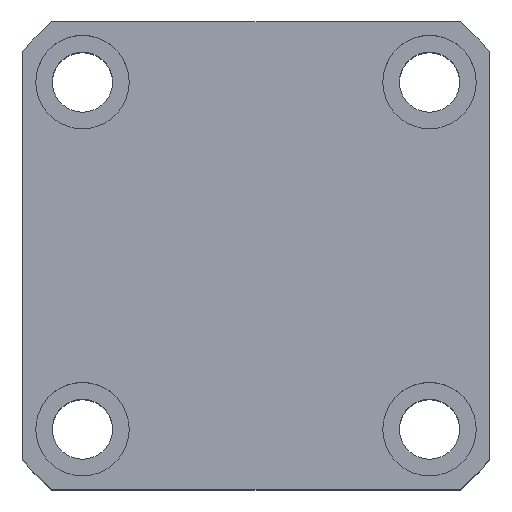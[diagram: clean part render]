
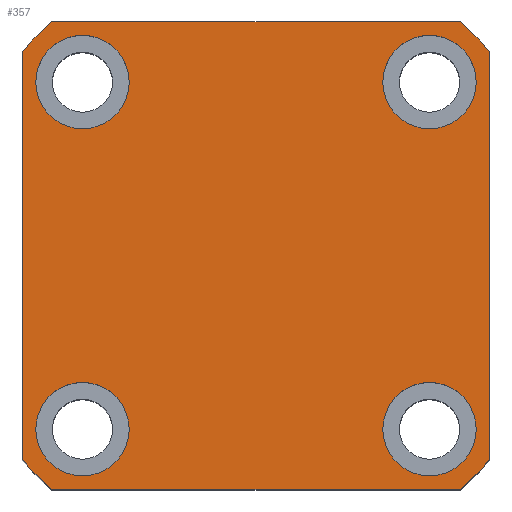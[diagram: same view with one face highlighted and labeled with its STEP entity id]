
A CAD part, top view. The second image highlights one B-rep face of the part: STEP entity #357.
In plain terms, the highlighted planar face has unit normal (0, 0, 1).
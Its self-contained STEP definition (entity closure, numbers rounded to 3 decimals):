
#89 = CARTESIAN_POINT ( 'NONE',  ( -35., 35., 70. ) ) ;
#112 = VERTEX_POINT ( 'NONE', #2491 ) ;
#145 = CARTESIAN_POINT ( 'NONE',  ( 0., 0., 70. ) ) ;
#148 = LINE ( 'NONE', #7885, #6182 ) ;
#241 = DIRECTION ( 'NONE',  ( 1., 0., 0. ) ) ;
#321 = CARTESIAN_POINT ( 'NONE',  ( 26., 26., 70. ) ) ;
#338 = VERTEX_POINT ( 'NONE', #4528 ) ;
#357 = ADVANCED_FACE ( 'NONE', ( #1483, #3338, #9853, #5417, #5171 ), #9178, .T. ) ;
#388 = DIRECTION ( 'NONE',  ( 1., 0., 0. ) ) ;
#466 = VERTEX_POINT ( 'NONE', #634 ) ;
#480 = CARTESIAN_POINT ( 'NONE',  ( 35., 35., 70. ) ) ;
#558 = DIRECTION ( 'NONE',  ( 0., 0., 1. ) ) ;
#577 = ORIENTED_EDGE ( 'NONE', *, *, #3865, .T. ) ;
#616 = CARTESIAN_POINT ( 'NONE',  ( 0., 0., 70. ) ) ;
#634 = CARTESIAN_POINT ( 'NONE',  ( 30.615, -35., 70. ) ) ;
#777 = CIRCLE ( 'NONE', #7528, 46.5 ) ;
#785 = CARTESIAN_POINT ( 'NONE',  ( 26., -26., 70. ) ) ;
#825 = ORIENTED_EDGE ( 'NONE', *, *, #5369, .T. ) ;
#839 = CIRCLE ( 'NONE', #3670, 7. ) ;
#865 = DIRECTION ( 'NONE',  ( 0., -1., 0. ) ) ;
#907 = ORIENTED_EDGE ( 'NONE', *, *, #4036, .F. ) ;
#983 = DIRECTION ( 'NONE',  ( 0., 0., 1. ) ) ;
#1002 = DIRECTION ( 'NONE',  ( 0., 0., 1. ) ) ;
#1056 = CARTESIAN_POINT ( 'NONE',  ( -35., 35., 70. ) ) ;
#1106 = DIRECTION ( 'NONE',  ( 1., 0., 0. ) ) ;
#1255 = ORIENTED_EDGE ( 'NONE', *, *, #4089, .F. ) ;
#1362 = EDGE_LOOP ( 'NONE', ( #3307, #3544 ) ) ;
#1401 = DIRECTION ( 'NONE',  ( 1., 0., 0. ) ) ;
#1414 = AXIS2_PLACEMENT_3D ( 'NONE', #9094, #558, #6578 ) ;
#1480 = CARTESIAN_POINT ( 'NONE',  ( 19., -26., 70. ) ) ;
#1483 = FACE_BOUND ( 'NONE', #1548, .T. ) ;
#1548 = EDGE_LOOP ( 'NONE', ( #2210, #8474 ) ) ;
#1556 = CARTESIAN_POINT ( 'NONE',  ( -35., 30.615, 70. ) ) ;
#1577 = DIRECTION ( 'NONE',  ( 1., 0., 0. ) ) ;
#1839 = AXIS2_PLACEMENT_3D ( 'NONE', #9812, #5094, #388 ) ;
#1948 = VERTEX_POINT ( 'NONE', #4891 ) ;
#1993 = DIRECTION ( 'NONE',  ( 0., 1., 0. ) ) ;
#2118 = EDGE_CURVE ( 'NONE', #6898, #1948, #7145, .T. ) ;
#2145 = CIRCLE ( 'NONE', #9343, 7. ) ;
#2210 = ORIENTED_EDGE ( 'NONE', *, *, #3240, .F. ) ;
#2308 = CARTESIAN_POINT ( 'NONE',  ( -19., 26., 70. ) ) ;
#2447 = VERTEX_POINT ( 'NONE', #7790 ) ;
#2491 = CARTESIAN_POINT ( 'NONE',  ( 30.615, 35., 70. ) ) ;
#2540 = DIRECTION ( 'NONE',  ( 0., 0., 1. ) ) ;
#2567 = LINE ( 'NONE', #89, #8853 ) ;
#2967 = ORIENTED_EDGE ( 'NONE', *, *, #10031, .T. ) ;
#3009 = CIRCLE ( 'NONE', #5595, 7. ) ;
#3055 = DIRECTION ( 'NONE',  ( 0., 0., 1. ) ) ;
#3240 = EDGE_CURVE ( 'NONE', #1948, #6898, #839, .T. ) ;
#3282 = AXIS2_PLACEMENT_3D ( 'NONE', #9658, #4941, #241 ) ;
#3300 = VERTEX_POINT ( 'NONE', #5389 ) ;
#3307 = ORIENTED_EDGE ( 'NONE', *, *, #6005, .F. ) ;
#3338 = FACE_BOUND ( 'NONE', #5575, .T. ) ;
#3360 = ORIENTED_EDGE ( 'NONE', *, *, #7039, .F. ) ;
#3476 = VERTEX_POINT ( 'NONE', #4901 ) ;
#3544 = ORIENTED_EDGE ( 'NONE', *, *, #8034, .F. ) ;
#3629 = ORIENTED_EDGE ( 'NONE', *, *, #9058, .T. ) ;
#3659 = CARTESIAN_POINT ( 'NONE',  ( -33., -26., 70. ) ) ;
#3670 = AXIS2_PLACEMENT_3D ( 'NONE', #8535, #3825, #9329 ) ;
#3689 = VERTEX_POINT ( 'NONE', #10104 ) ;
#3786 = VERTEX_POINT ( 'NONE', #1556 ) ;
#3825 = DIRECTION ( 'NONE',  ( 0., 0., 1. ) ) ;
#3865 = EDGE_CURVE ( 'NONE', #3786, #7683, #2567, .T. ) ;
#3967 = ORIENTED_EDGE ( 'NONE', *, *, #8348, .T. ) ;
#3982 = CIRCLE ( 'NONE', #1839, 46.5 ) ;
#4005 = CARTESIAN_POINT ( 'NONE',  ( 33., 26., 70. ) ) ;
#4036 = EDGE_CURVE ( 'NONE', #10176, #7607, #8425, .T. ) ;
#4089 = EDGE_CURVE ( 'NONE', #2447, #4762, #2145, .T. ) ;
#4197 = DIRECTION ( 'NONE',  ( 0., 0., 1. ) ) ;
#4306 = DIRECTION ( 'NONE',  ( 0., 0., 1. ) ) ;
#4528 = CARTESIAN_POINT ( 'NONE',  ( 35., -30.615, 70. ) ) ;
#4762 = VERTEX_POINT ( 'NONE', #1480 ) ;
#4823 = CIRCLE ( 'NONE', #7171, 46.5 ) ;
#4891 = CARTESIAN_POINT ( 'NONE',  ( -19., -26., 70. ) ) ;
#4901 = CARTESIAN_POINT ( 'NONE',  ( -30.615, 35., 70. ) ) ;
#4931 = AXIS2_PLACEMENT_3D ( 'NONE', #785, #6301, #1577 ) ;
#4941 = DIRECTION ( 'NONE',  ( 0., 0., 1. ) ) ;
#5094 = DIRECTION ( 'NONE',  ( 0., 0., 1. ) ) ;
#5171 = FACE_OUTER_BOUND ( 'NONE', #7206, .T. ) ;
#5369 = EDGE_CURVE ( 'NONE', #3476, #3786, #4823, .T. ) ;
#5389 = CARTESIAN_POINT ( 'NONE',  ( 35., 30.615, 70. ) ) ;
#5417 = FACE_BOUND ( 'NONE', #5478, .T. ) ;
#5431 = CIRCLE ( 'NONE', #3282, 46.5 ) ;
#5478 = EDGE_LOOP ( 'NONE', ( #907, #10182 ) ) ;
#5514 = DIRECTION ( 'NONE',  ( 1., 0., 0. ) ) ;
#5575 = EDGE_LOOP ( 'NONE', ( #1255, #3360 ) ) ;
#5595 = AXIS2_PLACEMENT_3D ( 'NONE', #321, #5833, #1106 ) ;
#5680 = EDGE_CURVE ( 'NONE', #3300, #112, #5431, .T. ) ;
#5700 = CARTESIAN_POINT ( 'NONE',  ( 26., 26., 70. ) ) ;
#5724 = CARTESIAN_POINT ( 'NONE',  ( -26., 26., 70. ) ) ;
#5769 = VERTEX_POINT ( 'NONE', #4005 ) ;
#5797 = CIRCLE ( 'NONE', #4931, 7. ) ;
#5833 = DIRECTION ( 'NONE',  ( 0., 0., 1. ) ) ;
#5908 = ORIENTED_EDGE ( 'NONE', *, *, #6425, .T. ) ;
#6005 = EDGE_CURVE ( 'NONE', #5769, #8241, #7928, .T. ) ;
#6056 = VECTOR ( 'NONE', #7406, 1000. ) ;
#6133 = DIRECTION ( 'NONE',  ( 0., 0., 1. ) ) ;
#6182 = VECTOR ( 'NONE', #5514, 1000. ) ;
#6192 = CARTESIAN_POINT ( 'NONE',  ( -35., -30.615, 70. ) ) ;
#6301 = DIRECTION ( 'NONE',  ( 0., 0., 1. ) ) ;
#6425 = EDGE_CURVE ( 'NONE', #3689, #466, #148, .T. ) ;
#6484 = DIRECTION ( 'NONE',  ( 1., 0., 0. ) ) ;
#6508 = DIRECTION ( 'NONE',  ( 1., 0., 0. ) ) ;
#6578 = DIRECTION ( 'NONE',  ( 1., 0., 0. ) ) ;
#6596 = ORIENTED_EDGE ( 'NONE', *, *, #9689, .T. ) ;
#6760 = CARTESIAN_POINT ( 'NONE',  ( 19., 26., 70. ) ) ;
#6898 = VERTEX_POINT ( 'NONE', #3659 ) ;
#6956 = CARTESIAN_POINT ( 'NONE',  ( -33., 26., 70. ) ) ;
#7039 = EDGE_CURVE ( 'NONE', #4762, #2447, #5797, .T. ) ;
#7145 = CIRCLE ( 'NONE', #1414, 7. ) ;
#7171 = AXIS2_PLACEMENT_3D ( 'NONE', #616, #6133, #1401 ) ;
#7206 = EDGE_LOOP ( 'NONE', ( #6596, #7751, #2967, #825, #577, #3967, #5908, #3629 ) ) ;
#7234 = AXIS2_PLACEMENT_3D ( 'NONE', #5724, #1002, #6508 ) ;
#7265 = CARTESIAN_POINT ( 'NONE',  ( 0., 0., 70. ) ) ;
#7406 = DIRECTION ( 'NONE',  ( -1., 0., 0. ) ) ;
#7528 = AXIS2_PLACEMENT_3D ( 'NONE', #7265, #2540, #8065 ) ;
#7607 = VERTEX_POINT ( 'NONE', #6956 ) ;
#7674 = EDGE_CURVE ( 'NONE', #7607, #10176, #9769, .T. ) ;
#7683 = VERTEX_POINT ( 'NONE', #6192 ) ;
#7751 = ORIENTED_EDGE ( 'NONE', *, *, #5680, .T. ) ;
#7788 = CARTESIAN_POINT ( 'NONE',  ( -26., 26., 70. ) ) ;
#7790 = CARTESIAN_POINT ( 'NONE',  ( 33., -26., 70. ) ) ;
#7885 = CARTESIAN_POINT ( 'NONE',  ( -35., -35., 70. ) ) ;
#7928 = CIRCLE ( 'NONE', #9082, 7. ) ;
#8034 = EDGE_CURVE ( 'NONE', #8241, #5769, #3009, .T. ) ;
#8041 = LINE ( 'NONE', #480, #10123 ) ;
#8065 = DIRECTION ( 'NONE',  ( 1., 0., 0. ) ) ;
#8152 = LINE ( 'NONE', #1056, #6056 ) ;
#8241 = VERTEX_POINT ( 'NONE', #6760 ) ;
#8348 = EDGE_CURVE ( 'NONE', #7683, #3689, #777, .T. ) ;
#8425 = CIRCLE ( 'NONE', #7234, 7. ) ;
#8474 = ORIENTED_EDGE ( 'NONE', *, *, #2118, .F. ) ;
#8535 = CARTESIAN_POINT ( 'NONE',  ( -26., -26., 70. ) ) ;
#8562 = DIRECTION ( 'NONE',  ( 1., 0., 0. ) ) ;
#8588 = AXIS2_PLACEMENT_3D ( 'NONE', #145, #4306, #9623 ) ;
#8853 = VECTOR ( 'NONE', #865, 1000. ) ;
#8929 = CARTESIAN_POINT ( 'NONE',  ( 26., -26., 70. ) ) ;
#9058 = EDGE_CURVE ( 'NONE', #466, #338, #3982, .T. ) ;
#9082 = AXIS2_PLACEMENT_3D ( 'NONE', #5700, #983, #6484 ) ;
#9094 = CARTESIAN_POINT ( 'NONE',  ( -26., -26., 70. ) ) ;
#9178 = PLANE ( 'NONE',  #8588 ) ;
#9329 = DIRECTION ( 'NONE',  ( 1., 0., 0. ) ) ;
#9343 = AXIS2_PLACEMENT_3D ( 'NONE', #8929, #4197, #9704 ) ;
#9484 = AXIS2_PLACEMENT_3D ( 'NONE', #7788, #3055, #8562 ) ;
#9623 = DIRECTION ( 'NONE',  ( 1., 0., 0. ) ) ;
#9658 = CARTESIAN_POINT ( 'NONE',  ( 0., 0., 70. ) ) ;
#9689 = EDGE_CURVE ( 'NONE', #338, #3300, #8041, .T. ) ;
#9704 = DIRECTION ( 'NONE',  ( 1., 0., 0. ) ) ;
#9769 = CIRCLE ( 'NONE', #9484, 7. ) ;
#9812 = CARTESIAN_POINT ( 'NONE',  ( 0., 0., 70. ) ) ;
#9853 = FACE_BOUND ( 'NONE', #1362, .T. ) ;
#10031 = EDGE_CURVE ( 'NONE', #112, #3476, #8152, .T. ) ;
#10104 = CARTESIAN_POINT ( 'NONE',  ( -30.615, -35., 70. ) ) ;
#10123 = VECTOR ( 'NONE', #1993, 1000. ) ;
#10176 = VERTEX_POINT ( 'NONE', #2308 ) ;
#10182 = ORIENTED_EDGE ( 'NONE', *, *, #7674, .F. ) ;
